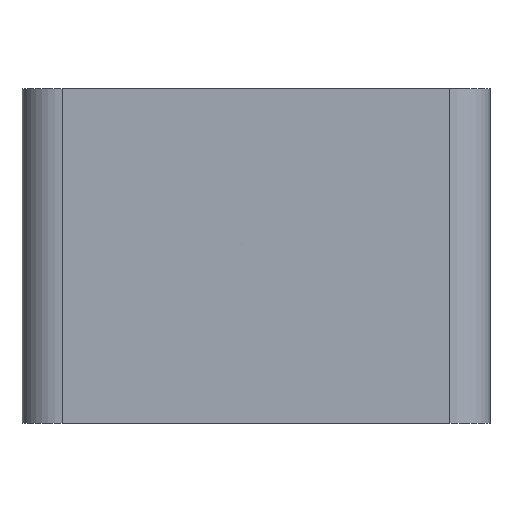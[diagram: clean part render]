
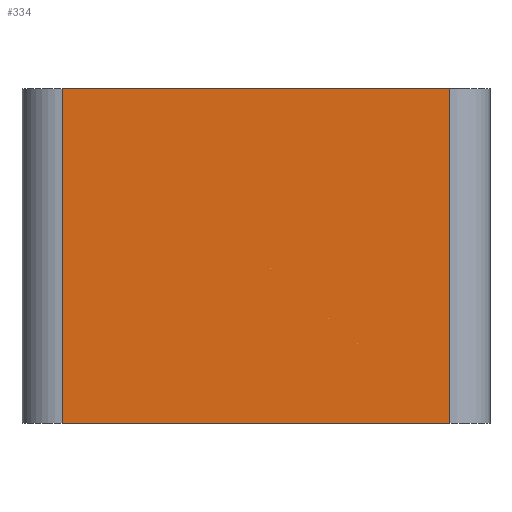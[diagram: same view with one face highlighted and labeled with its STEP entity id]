
A CAD part, front view. The second image highlights one B-rep face of the part: STEP entity #334.
In plain terms, the highlighted planar face has unit normal (0, -1, 0).
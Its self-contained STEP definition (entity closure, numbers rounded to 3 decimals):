
#185=FACE_OUTER_BOUND('',#1088,.T.);
#334=ADVANCED_FACE('',(#185),#520,.T.);
#520=PLANE('',#3315);
#640=LINE('',#4821,#796);
#645=LINE('',#4840,#801);
#646=LINE('',#4843,#802);
#647=LINE('',#4844,#803);
#796=VECTOR('',#3564,1.);
#801=VECTOR('',#3581,1.);
#802=VECTOR('',#3582,1.);
#803=VECTOR('',#3583,1.);
#1088=EDGE_LOOP('',(#1429,#1430,#1431,#1432));
#1429=ORIENTED_EDGE('',*,*,#2617,.T.);
#1430=ORIENTED_EDGE('',*,*,#2618,.T.);
#1431=ORIENTED_EDGE('',*,*,#2608,.T.);
#1432=ORIENTED_EDGE('',*,*,#2619,.T.);
#2302=VERTEX_POINT('',#4820);
#2303=VERTEX_POINT('',#4822);
#2311=VERTEX_POINT('',#4841);
#2312=VERTEX_POINT('',#4842);
#2608=EDGE_CURVE('',#2303,#2302,#640,.T.);
#2617=EDGE_CURVE('',#2311,#2312,#645,.T.);
#2618=EDGE_CURVE('',#2312,#2303,#646,.T.);
#2619=EDGE_CURVE('',#2302,#2311,#647,.T.);
#3315=AXIS2_PLACEMENT_3D('',#4845,#3584,#3585);
#3564=DIRECTION('',(-1.,0.,0.));
#3581=DIRECTION('',(1.,0.,0.));
#3582=DIRECTION('',(0.,0.,1.));
#3583=DIRECTION('',(0.,0.,-1.));
#3584=DIRECTION('',(0.,-1.,0.));
#3585=DIRECTION('',(0.,0.,-1.));
#4820=CARTESIAN_POINT('',(3.,0.,25.));
#4821=CARTESIAN_POINT('',(17.5,0.,25.));
#4822=CARTESIAN_POINT('',(32.,0.,25.));
#4840=CARTESIAN_POINT('',(17.5,0.,0.));
#4841=CARTESIAN_POINT('',(3.,0.,0.));
#4842=CARTESIAN_POINT('',(32.,0.,0.));
#4843=CARTESIAN_POINT('',(32.,0.,0.));
#4844=CARTESIAN_POINT('',(3.,0.,0.));
#4845=CARTESIAN_POINT('',(17.5,0.,0.));
